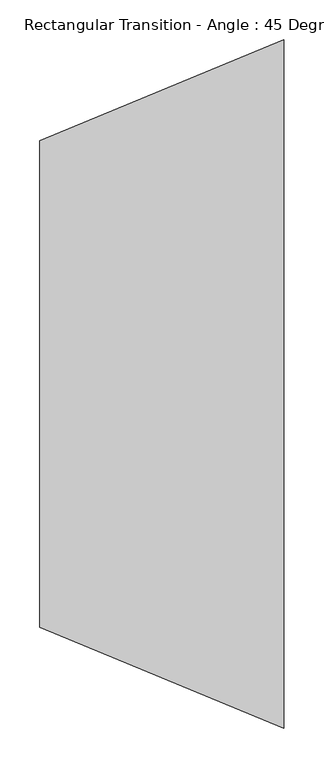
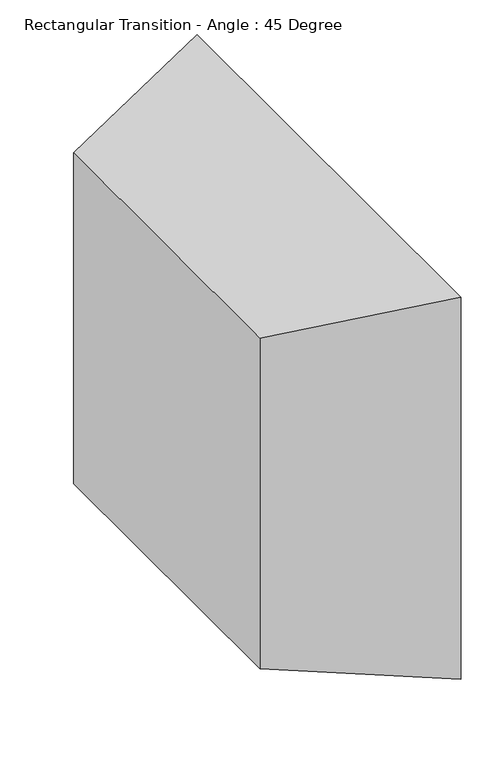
"""IFC4 building model written with IfcOpenShell, lengths in millimetres: duct fitting geometry, Rectangular Transition - Angle : 45 Degree."""

from ifc_helpers import new_model, si_unit, origin, place, context, project, spatial, faceted_brep, source, transform, mapped, element, save


def rectangular_transition_angle_45_degree_781d75e2(model_context):
    return source(origin(), model_context, "Body", "Brep", [
        faceted_brep([(306.1222797, -431.8, 381.0), (306.1222797, -431.8, -381.0), (306.1222797, 431.8, -381.0), (306.1222797, 431.8, 381.0), (0.0, -305.0, 330.0), (0.0, 305.0, 330.0), (0.0, 305.0, -330.0), (0.0, -305.0, -330.0)], [[[0, 1, 2, 3]], [[4, 5, 6, 7]], [[4, 7, 1, 0]], [[7, 6, 2, 1]], [[6, 5, 3, 2]], [[5, 4, 0, 3]]]),
    ])


if __name__ == "__main__":
    model = new_model("IFC4")
    model_context = context("Model", 3, world=origin())
    ifc_project = project(units=[si_unit("LENGTHUNIT", "METRE", prefix="MILLI")], contexts=[model_context])
    site = spatial("IfcSite", under=ifc_project)
    building = spatial("IfcBuilding", under=site)
    placement = place(None, origin())
    rectangular_transition_angle_45_degree_shape = rectangular_transition_angle_45_degree_781d75e2(model_context)
    element("IfcDuctFitting", 1, ObjectType="Rectangular Transition - Angle : 45 Degree", at=placement, inside=building, context=model_context, shape_type="MappedRepresentation", body=[
        mapped(rectangular_transition_angle_45_degree_shape, transform((0.0, 0.0, 0.0), x_axis=(1.0, 0.0, 0.0), y_axis=(0.0, 1.0, 0.0), z_axis=(0.0, 0.0, 1.0))),
    ])
    save(model, "model.ifc")
